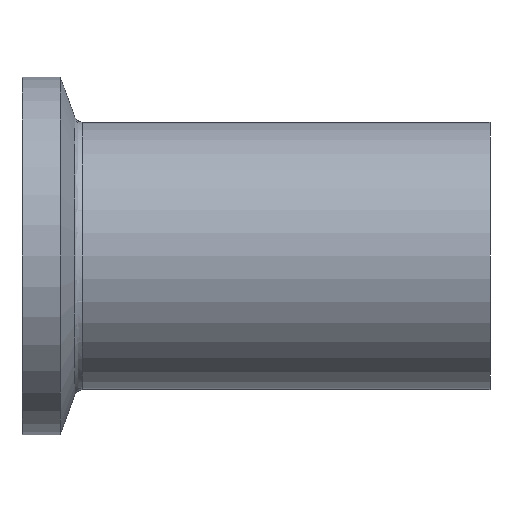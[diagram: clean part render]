
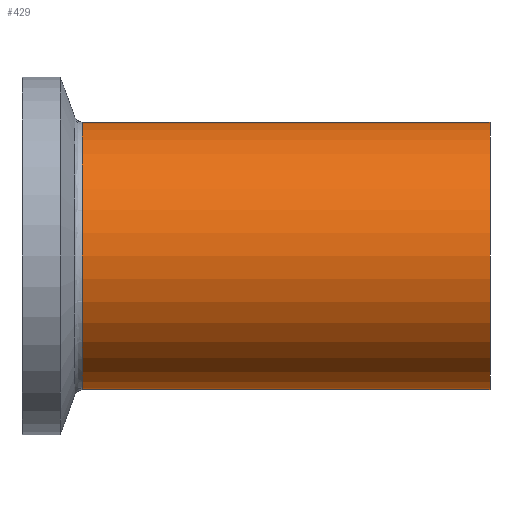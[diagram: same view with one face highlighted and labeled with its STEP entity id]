
A CAD part, front view. The second image highlights one B-rep face of the part: STEP entity #429.
In plain terms, the highlighted cylindrical face has radius 12.7 mm (diameter 25.4 mm), a partial arc.
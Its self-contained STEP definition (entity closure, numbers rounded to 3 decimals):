
#2 = DIRECTION ( 'NONE',  ( -1., 0., 0. ) ) ;
#5 = LINE ( 'NONE', #661, #243 ) ;
#29 = EDGE_CURVE ( 'NONE', #710, #732, #159, .T. ) ;
#53 = CARTESIAN_POINT ( 'NONE',  ( 5.751, 0., 12.7 ) ) ;
#77 = CARTESIAN_POINT ( 'NONE',  ( 44.5, 0., 0. ) ) ;
#101 = CARTESIAN_POINT ( 'NONE',  ( 44.5, 0., 12.7 ) ) ;
#159 = CIRCLE ( 'NONE', #355, 12.7 ) ;
#176 = EDGE_CURVE ( 'NONE', #710, #206, #532, .T. ) ;
#179 = ORIENTED_EDGE ( 'NONE', *, *, #176, .F. ) ;
#189 = EDGE_LOOP ( 'NONE', ( #179, #281, #333, #269 ) ) ;
#195 = EDGE_CURVE ( 'NONE', #719, #206, #534, .T. ) ;
#198 = DIRECTION ( 'NONE',  ( 1., 0., 0. ) ) ;
#206 = VERTEX_POINT ( 'NONE', #340 ) ;
#242 = DIRECTION ( 'NONE',  ( 0., 0., 1. ) ) ;
#243 = VECTOR ( 'NONE', #545, 1000. ) ;
#269 = ORIENTED_EDGE ( 'NONE', *, *, #195, .T. ) ;
#281 = ORIENTED_EDGE ( 'NONE', *, *, #29, .T. ) ;
#333 = ORIENTED_EDGE ( 'NONE', *, *, #461, .T. ) ;
#340 = CARTESIAN_POINT ( 'NONE',  ( 5.751, 0., -12.7 ) ) ;
#350 = DIRECTION ( 'NONE',  ( -1., 0., 0. ) ) ;
#355 = AXIS2_PLACEMENT_3D ( 'NONE', #77, #350, #549 ) ;
#429 = ADVANCED_FACE ( 'NONE', ( #635 ), #696, .T. ) ;
#461 = EDGE_CURVE ( 'NONE', #732, #719, #5, .T. ) ;
#523 = VECTOR ( 'NONE', #2, 1000. ) ;
#532 = LINE ( 'NONE', #592, #523 ) ;
#534 = CIRCLE ( 'NONE', #559, 12.7 ) ;
#545 = DIRECTION ( 'NONE',  ( -1., 0., 0. ) ) ;
#549 = DIRECTION ( 'NONE',  ( 0., 0., 1. ) ) ;
#559 = AXIS2_PLACEMENT_3D ( 'NONE', #713, #198, #242 ) ;
#592 = CARTESIAN_POINT ( 'NONE',  ( -9.765, 0., -12.7 ) ) ;
#635 = FACE_OUTER_BOUND ( 'NONE', #189, .T. ) ;
#661 = CARTESIAN_POINT ( 'NONE',  ( -9.765, 0., 12.7 ) ) ;
#665 = CARTESIAN_POINT ( 'NONE',  ( 44.5, 0., -12.7 ) ) ;
#686 = AXIS2_PLACEMENT_3D ( 'NONE', #727, #711, #746 ) ;
#696 = CYLINDRICAL_SURFACE ( 'NONE', #686, 12.7 ) ;
#710 = VERTEX_POINT ( 'NONE', #665 ) ;
#711 = DIRECTION ( 'NONE',  ( -1., 0., 0. ) ) ;
#713 = CARTESIAN_POINT ( 'NONE',  ( 5.751, 0., 0. ) ) ;
#719 = VERTEX_POINT ( 'NONE', #53 ) ;
#727 = CARTESIAN_POINT ( 'NONE',  ( -9.765, 0., 0. ) ) ;
#732 = VERTEX_POINT ( 'NONE', #101 ) ;
#746 = DIRECTION ( 'NONE',  ( 0., 0., 1. ) ) ;
